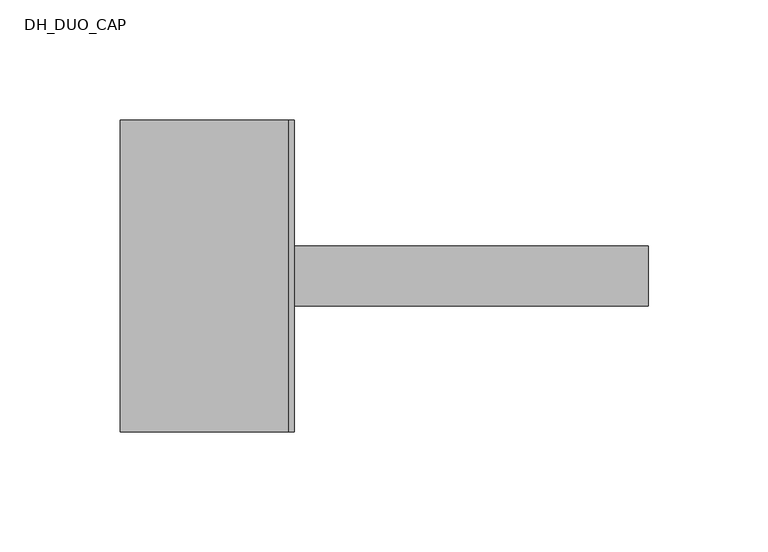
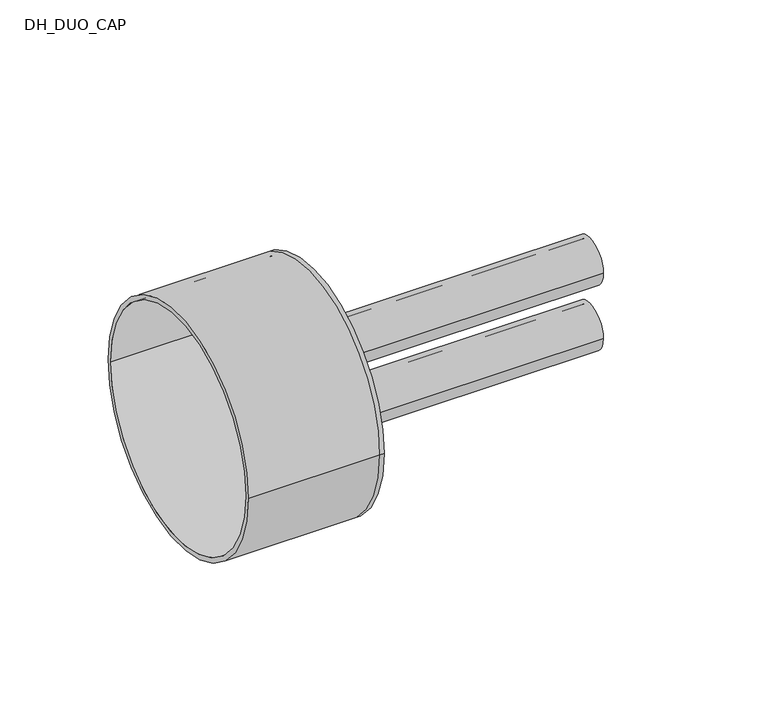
"""IFC4 building model written with IfcOpenShell, lengths in millimetres: pipe fitting geometry, DH_DUO_CAP : RAUVIPEX DUO 11 Heating - Solid Cap."""

from ifc_helpers import new_model, si_unit, point, frame, frame_2d, origin, place, context, project, spatial, polyline, circle_curve, trimmed, segment, composite_curve, outline, extrude, source, transform, mapped, element, save
from ifc_brep_helpers import plane_surface, cylinder_surface, revolved_surface, advanced_brep


def dh_duo_cap_08c91057(model_context):
    return source(origin(), model_context, "Body", "SolidModel", [
        extrude(outline(composite_curve([segment(trimmed(circle_curve(frame_2d((0.0, -18.5)), 12.5), [point((-12.5, -18.5))], [point((12.5, -18.5))], False, "CARTESIAN"), True, "CONTINUOUS"), segment(trimmed(circle_curve(frame_2d((0.0, -18.5)), 12.5), [point((12.5, -18.5))], [point((-12.5, -18.5))], False, "CARTESIAN"), True, "CONTINUOUS")], self_intersect=False), holes=[composite_curve([segment(trimmed(circle_curve(frame_2d((0.0, -18.5)), 10.2), [point((-10.2, -18.5))], [point((10.2, -18.5))], True, "CARTESIAN"), True, "CONTINUOUS"), segment(trimmed(circle_curve(frame_2d((0.0, -18.5)), 10.2), [point((10.2, -18.5))], [point((-10.2, -18.5))], True, "CARTESIAN"), True, "CONTINUOUS")], self_intersect=False)]), frame((0.0, 0.0, 0.0), z_axis=(1.0, 0.0, 0.0), x_axis=(0.0, 1.0, 0.0)), (0.0, 0.0, 1.0), 150.0),
        extrude(outline(composite_curve([segment(trimmed(circle_curve(frame_2d((0.0, 18.5)), 12.5), [point((-12.5, 18.5))], [point((12.5, 18.5))], False, "CARTESIAN"), True, "CONTINUOUS"), segment(trimmed(circle_curve(frame_2d((0.0, 18.5)), 12.5), [point((12.5, 18.5))], [point((-12.5, 18.5))], False, "CARTESIAN"), True, "CONTINUOUS")], self_intersect=False), holes=[composite_curve([segment(trimmed(circle_curve(frame_2d((0.0, 18.5)), 10.2), [point((-10.2, 18.5))], [point((10.2, 18.5))], True, "CARTESIAN"), True, "CONTINUOUS"), segment(trimmed(circle_curve(frame_2d((0.0, 18.5)), 10.2), [point((10.2, 18.5))], [point((-10.2, 18.5))], True, "CARTESIAN"), True, "CONTINUOUS")], self_intersect=False)]), frame((0.0, 0.0, 0.0), z_axis=(1.0, 0.0, 0.0), x_axis=(0.0, 1.0, 0.0)), (0.0, 0.0, 1.0), 150.0),
        advanced_brep(
        [(-70.0, -65.0, 0.0), (-70.0, 65.0, 0.0), (-70.0, -62.5, 0.0), (-70.0, 62.5, 0.0), (0.0, -62.5, 0.0), (0.0, 62.5, 0.0), (0.0, -65.0, 0.0), (0.0, 65.0, 0.0), (0.0, 12.5, 18.5), (0.0, -12.5, 18.5), (0.0, 12.5, -18.5), (0.0, -12.5, -18.5), (2.5, -65.0, 0.0), (2.5, 65.0, 0.0), (2.5, -12.5, 18.5), (2.5, 12.5, 18.5), (2.5, -12.5, -18.5), (2.5, 12.5, -18.5)],
        [
            (0, 1, circle_curve(frame((-70.0, 0.0, 0.0), z_axis=(-1.0, 0.0, 0.0), x_axis=(0.0, 1.0, 0.0)), 65.0)),
            (1, 0, circle_curve(frame((-70.0, 0.0, 0.0), z_axis=(-1.0, 0.0, 0.0), x_axis=(0.0, 1.0, 0.0)), 65.0)),
            (2, 3, circle_curve(frame((-70.0, 0.0, 0.0), z_axis=(1.0, 0.0, 0.0), x_axis=(0.0, 1.0, 0.0)), 62.5)),
            (3, 2, circle_curve(frame((-70.0, 0.0, 0.0), z_axis=(1.0, 0.0, 0.0), x_axis=(0.0, 1.0, 0.0)), 62.5)),
            (2, 4),
            (4, 5, circle_curve(frame((0.0, 0.0, 0.0), z_axis=(1.0, 0.0, 0.0), x_axis=(0.0, 1.0, 0.0)), 62.5)),
            (5, 3),
            (5, 4, circle_curve(frame((0.0, 0.0, 0.0), z_axis=(1.0, 0.0, 0.0), x_axis=(0.0, 1.0, 0.0)), 62.5)),
            (0, 6),
            (6, 7, circle_curve(frame((0.0, 0.0, 0.0), z_axis=(-1.0, 0.0, 0.0), x_axis=(0.0, 1.0, 0.0)), 65.0)),
            (7, 1),
            (7, 6, circle_curve(frame((0.0, 0.0, 0.0), z_axis=(-1.0, 0.0, 0.0), x_axis=(0.0, 1.0, 0.0)), 65.0)),
            (8, 9, circle_curve(frame((0.0, 0.0, 18.5), z_axis=(1.0, 0.0, 0.0), x_axis=(0.0, 1.0, 0.0)), 12.5)),
            (9, 8, circle_curve(frame((0.0, 0.0, 18.5), z_axis=(1.0, 0.0, 0.0), x_axis=(0.0, 1.0, 0.0)), 12.5)),
            (10, 11, circle_curve(frame((0.0, 0.0, -18.5), z_axis=(1.0, 0.0, 0.0), x_axis=(0.0, 1.0, 0.0)), 12.5)),
            (11, 10, circle_curve(frame((0.0, 0.0, -18.5), z_axis=(1.0, 0.0, 0.0), x_axis=(0.0, 1.0, 0.0)), 12.5)),
            (12, 13, circle_curve(frame((2.5, 0.0, 0.0), z_axis=(1.0, 0.0, 0.0), x_axis=(0.0, 1.0, 0.0)), 65.0)),
            (13, 12, circle_curve(frame((2.5, 0.0, 0.0), z_axis=(1.0, 0.0, 0.0), x_axis=(0.0, 1.0, 0.0)), 65.0)),
            (14, 15, circle_curve(frame((2.5, 0.0, 18.5), z_axis=(-1.0, 0.0, 0.0), x_axis=(0.0, 1.0, 0.0)), 12.5)),
            (15, 14, circle_curve(frame((2.5, 0.0, 18.5), z_axis=(-1.0, 0.0, 0.0), x_axis=(0.0, 1.0, 0.0)), 12.5)),
            (16, 17, circle_curve(frame((2.5, 0.0, -18.5), z_axis=(-1.0, 0.0, 0.0), x_axis=(0.0, 1.0, 0.0)), 12.5)),
            (17, 16, circle_curve(frame((2.5, 0.0, -18.5), z_axis=(-1.0, 0.0, 0.0), x_axis=(0.0, 1.0, 0.0)), 12.5)),
            (13, 7),
            (6, 12),
            (8, 15),
            (14, 9),
            (10, 17),
            (16, 11),
        ],
        [
            plane_surface(frame((-70.0, 0.0, 0.0), z_axis=(-1.0, 0.0, 0.0), x_axis=(0.0, 0.0, 1.0))),
            revolved_surface(polyline([(0.0, 62.5, 0.0), (-70.0, 62.5, 0.0)]), (-70.0, 0.0, 0.0), (1.0, 0.0, 0.0)),
            cylinder_surface(frame((-70.0, 0.0, 0.0), z_axis=(-1.0, 0.0, 0.0), x_axis=(0.0, 1.0, 0.0)), 65.0),
            plane_surface(frame((0.0, 0.0, 0.0), z_axis=(-1.0, 0.0, 0.0), x_axis=(0.0, 0.0, 1.0))),
            plane_surface(frame((2.5, 0.0, 0.0), z_axis=(1.0, 0.0, 0.0), x_axis=(0.0, 0.0, 1.0))),
            cylinder_surface(frame((0.0, 0.0, 0.0), z_axis=(-1.0, 0.0, 0.0), x_axis=(0.0, 1.0, 0.0)), 65.0),
            revolved_surface(polyline([(0.0, 12.5, 18.5), (2.5, 12.5, 18.5)]), (0.0, 0.0, 18.5), (-1.0, 0.0, 0.0)),
            revolved_surface(polyline([(0.0, 12.5, -18.5), (2.5, 12.5, -18.5)]), (0.0, 0.0, -18.5), (-1.0, 0.0, 0.0)),
        ],
        [
            (0, [[1, 2], [3, 4]]),
            (1, [[-3, 5, 6, 7]]),
            (1, [[-4, -7, 8, -5]]),
            (2, [[-1, 9, 10, 11]]),
            (2, [[-2, -11, 12, -9]]),
            (3, [[-6, -8], [13, 14], [15, 16]]),
            (4, [[17, 18], [19, 20], [21, 22]]),
            (5, [[-18, 23, -10, 24]]),
            (5, [[-17, -24, -12, -23]]),
            (6, [[25, -19, 26, -13]]),
            (6, [[-25, -14, -26, -20]]),
            (7, [[27, -21, 28, -15]]),
            (7, [[-27, -16, -28, -22]]),
        ],
    ),
    ])


if __name__ == "__main__":
    model = new_model("IFC4")
    model_context = context("Model", 3, world=origin())
    ifc_project = project(units=[si_unit("LENGTHUNIT", "METRE", prefix="MILLI")], contexts=[model_context])
    site = spatial("IfcSite", under=ifc_project)
    building = spatial("IfcBuilding", under=site)
    placement = place(None, origin())
    dh_duo_cap_shape = dh_duo_cap_08c91057(model_context)
    element("IfcPipeFitting", 1, ObjectType="DH_DUO_CAP : RAUVIPEX DUO 11 Heating - Solid Cap", at=placement, inside=building, context=model_context, shape_type="MappedRepresentation", body=[
        mapped(dh_duo_cap_shape, transform((0.0, 0.0, 0.0), x_axis=(1.0, 0.0, 0.0), y_axis=(0.0, 1.0, 0.0), z_axis=(0.0, 0.0, 1.0))),
    ])
    save(model, "model.ifc")
